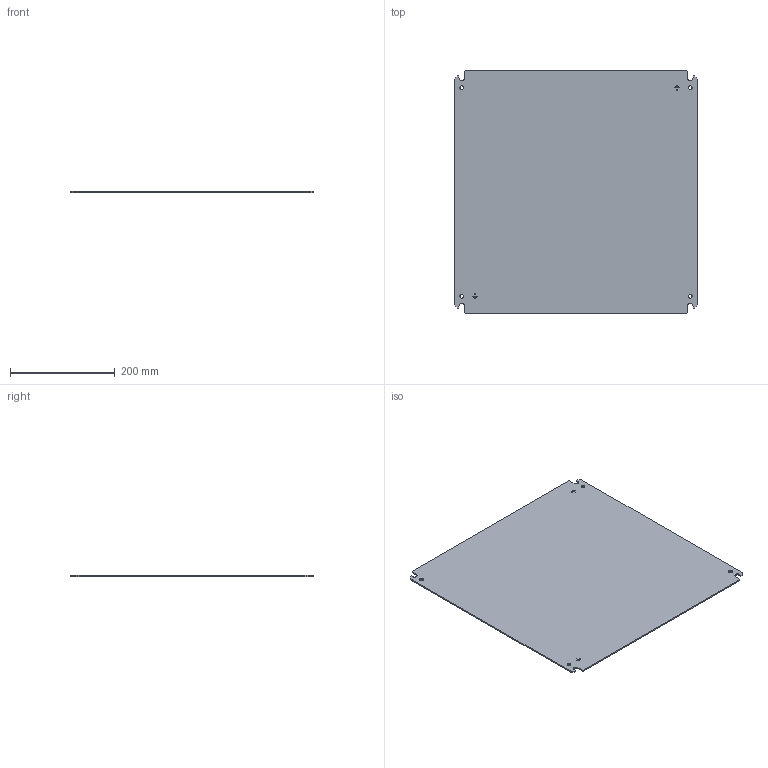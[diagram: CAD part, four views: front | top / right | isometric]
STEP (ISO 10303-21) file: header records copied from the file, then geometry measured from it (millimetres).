
FILE_DESCRIPTION (( 'STEP AP203' ), '1' );
FILE_NAME ('cp2020.STEP', '2011-10-13T17:20:26', ( 'Hoffman User' ), ( 'Hoffman Enclosures' ), 'SwSTEP 2.0', 'SolidWorks 2010', '' );
FILE_SCHEMA (( 'CONFIG_CONTROL_DESIGN' ));
Length unit declared in the file: inch
Products named in the file (2): 64403005; cp2020
Assembly tree (1 placements, depth 2):
  cp2020
    64403005
Bounding box: 462.28 x 462.28 x 2.46 mm (x, y, z)
Volume: 523421.9 mm3; surface area: 429855.7 mm2
Topology: 1 solids, 1 shells, 112 faces, 280 edges, 176 vertices
Faces by surface type: plane 100, cylinder 12
Entity records: 3468 total; most frequent: CARTESIAN_POINT 572, ORIENTED_EDGE 560, DIRECTION 536, EDGE_CURVE 280, LINE 256, VECTOR 256, VERTEX_POINT 176, AXIS2_PLACEMENT_3D 140
